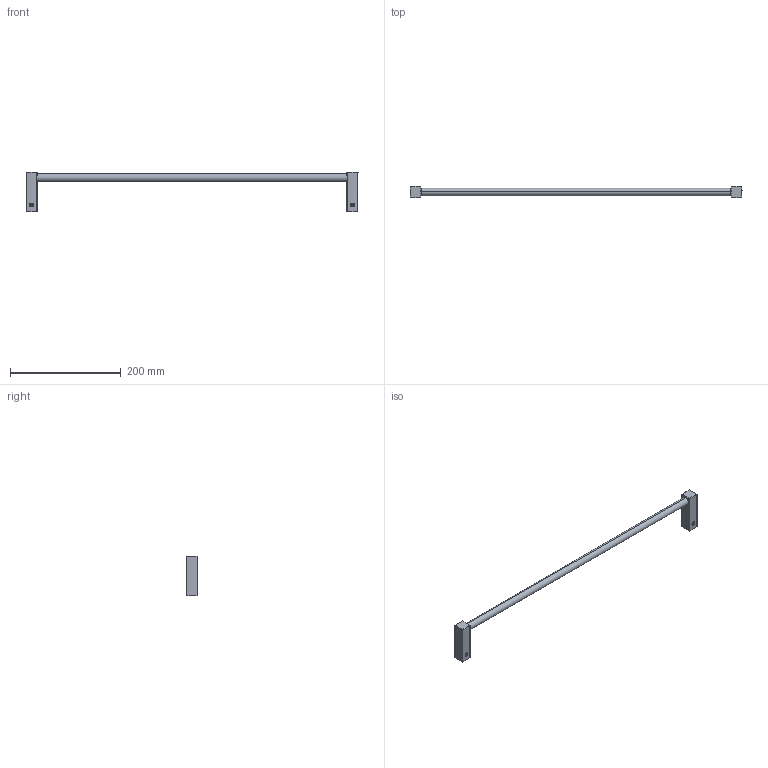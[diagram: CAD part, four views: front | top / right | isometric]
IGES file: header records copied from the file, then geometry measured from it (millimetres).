
Start section: SolidWorks IGES file using analytic representation for surfaces
Global section: file name: G:\Projects\New project\For Marketing\IGS\IGS\2015-12-4\381060002VW.IGS; native system: SolidWorks 2010; preprocessor: SolidWorks 2010; author: linda; date: 151202.154416; units: millimetre
Bounding box: 599.95 x 19.97 x 72 mm (x, y, z)
Surface area: 41736.9 mm2 (no closed solid volume)
Topology: 0 solids, 0 shells, 104 faces, 1016 edges, 1012 vertices
Faces by surface type: revolution 56, bspline 48
